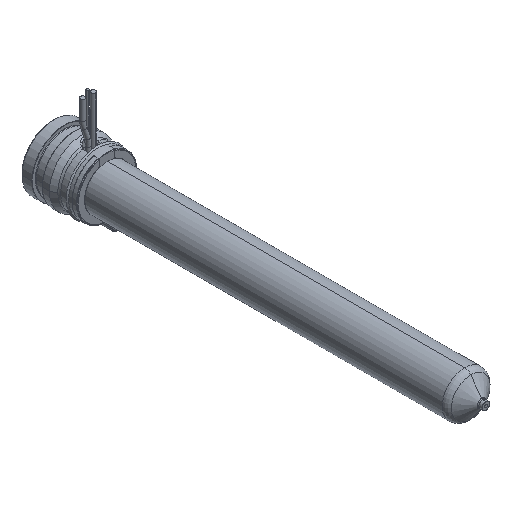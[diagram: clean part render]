
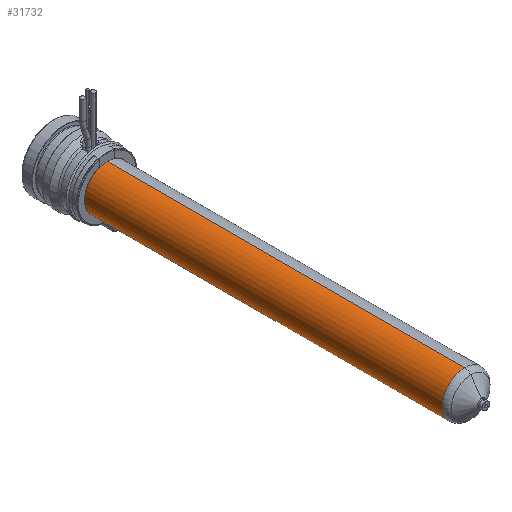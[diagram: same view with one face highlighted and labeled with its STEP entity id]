
A CAD part, isometric view. The second image highlights one B-rep face of the part: STEP entity #31732.
In plain terms, the highlighted cylindrical face has radius 9 mm (diameter 18 mm), a partial arc.
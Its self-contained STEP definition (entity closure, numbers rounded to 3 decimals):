
#31296=CARTESIAN_POINT('',(0.,-165.471,0.));
#31297=DIRECTION('',(0.,-1.,0.));
#31298=DIRECTION('',(0.,0.,1.));
#31299=AXIS2_PLACEMENT_3D('',#31296,#31297,#31298);
#31328=DIRECTION('',(0.,-1.,0.));
#31329=VECTOR('',#31328,143.471);
#31330=CARTESIAN_POINT('',(0.,-22.,9.));
#31331=LINE('',#31330,#31329);
#31343=DIRECTION('',(0.,-1.,0.));
#31344=VECTOR('',#31343,143.471);
#31345=CARTESIAN_POINT('',(0.,-22.,-9.));
#31346=LINE('',#31345,#31344);
#31350=CARTESIAN_POINT('',(0.,-22.,0.));
#31351=DIRECTION('',(0.,-1.,0.));
#31352=DIRECTION('',(0.,0.,1.));
#31353=AXIS2_PLACEMENT_3D('',#31350,#31351,#31352);
#31548=CARTESIAN_POINT('',(0.,-22.,9.));
#31549=CARTESIAN_POINT('',(0.,-165.471,9.));
#31550=VERTEX_POINT('',#31548);
#31551=VERTEX_POINT('',#31549);
#31560=CARTESIAN_POINT('',(0.,-22.,-9.));
#31561=CARTESIAN_POINT('',(0.,-165.471,-9.));
#31562=VERTEX_POINT('',#31560);
#31563=VERTEX_POINT('',#31561);
#31720=CARTESIAN_POINT('',(0.,-10.2,0.));
#31721=DIRECTION('',(0.,-1.,0.));
#31722=DIRECTION('',(0.,0.,1.));
#31723=AXIS2_PLACEMENT_3D('',#31720,#31721,#31722);
#31724=CYLINDRICAL_SURFACE('',#31723,9.);
#31725=ORIENTED_EDGE('',*,*,#31710,.T.);
#31726=ORIENTED_EDGE('',*,*,#31687,.T.);
#31727=ORIENTED_EDGE('',*,*,#31714,.F.);
#31729=ORIENTED_EDGE('',*,*,#31728,.F.);
#31730=EDGE_LOOP('',(#31725,#31726,#31727,#31729));
#31731=FACE_OUTER_BOUND('',#31730,.F.);
#31732=ADVANCED_FACE('',(#31731),#31724,.T.);
#31300=CIRCLE('',#31299,9.);
#31354=CIRCLE('',#31353,9.);
#31687=EDGE_CURVE('',#31551,#31563,#31300,.T.);
#31710=EDGE_CURVE('',#31550,#31551,#31331,.T.);
#31714=EDGE_CURVE('',#31562,#31563,#31346,.T.);
#31728=EDGE_CURVE('',#31550,#31562,#31354,.T.);
